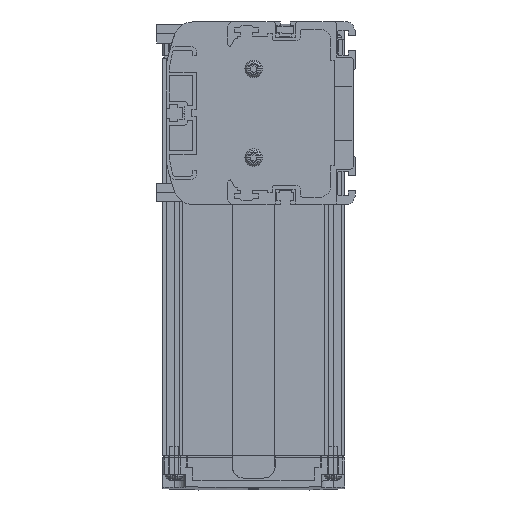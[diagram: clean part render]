
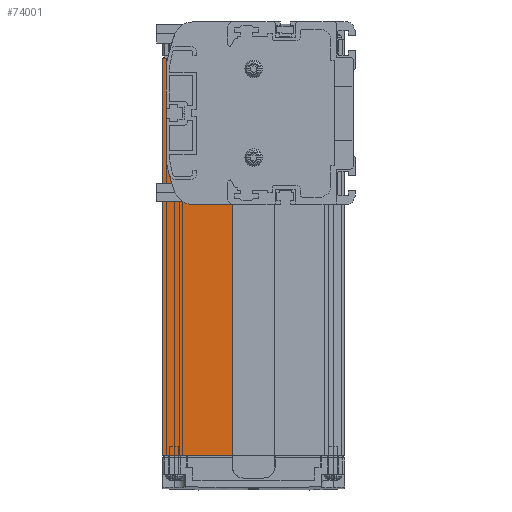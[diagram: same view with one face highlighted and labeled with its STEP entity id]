
A CAD part, left-side view. The second image highlights one B-rep face of the part: STEP entity #74001.
In plain terms, the highlighted planar face has unit normal (-1, 0, 0).
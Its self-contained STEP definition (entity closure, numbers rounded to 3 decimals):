
#71942=DIRECTION('',(0.,0.,1.));
#71943=VECTOR('',#71942,51.);
#71944=CARTESIAN_POINT('',(3.,70.5,-27.5));
#71945=LINE('',#71944,#71943);
#72591=DIRECTION('',(0.,0.,1.));
#72592=VECTOR('',#72591,170.);
#72593=CARTESIAN_POINT('',(3.,82.5,-146.5));
#72594=LINE('',#72593,#72592);
#72609=DIRECTION('',(0.,-1.,0.));
#72610=VECTOR('',#72609,29.9);
#72611=CARTESIAN_POINT('',(3.,82.5,-146.5));
#72612=LINE('',#72611,#72610);
#72613=DIRECTION('',(0.,1.,0.));
#72614=VECTOR('',#72613,12.);
#72615=CARTESIAN_POINT('',(3.,70.5,23.5));
#72616=LINE('',#72615,#72614);
#72617=DIRECTION('',(0.,1.,0.));
#72618=VECTOR('',#72617,17.9);
#72619=CARTESIAN_POINT('',(3.,52.6,-27.5));
#72620=LINE('',#72619,#72618);
#72727=DIRECTION('',(0.,0.,1.));
#72728=VECTOR('',#72727,119.);
#72729=CARTESIAN_POINT('',(3.,52.6,-146.5));
#72730=LINE('',#72729,#72728);
#72814=CARTESIAN_POINT('',(3.,70.5,23.5));
#72816=VERTEX_POINT('',#72814);
#72908=CARTESIAN_POINT('',(3.,82.5,23.5));
#72909=VERTEX_POINT('',#72908);
#72982=CARTESIAN_POINT('',(3.,82.5,-146.5));
#72983=VERTEX_POINT('',#72982);
#72984=CARTESIAN_POINT('',(3.,52.6,-146.5));
#72985=VERTEX_POINT('',#72984);
#73046=CARTESIAN_POINT('',(3.,70.5,-27.5));
#73047=VERTEX_POINT('',#73046);
#73048=CARTESIAN_POINT('',(3.,52.6,-27.5));
#73049=VERTEX_POINT('',#73048);
#73986=CARTESIAN_POINT('',(3.,67.55,-61.5));
#73987=DIRECTION('',(1.,0.,0.));
#73988=DIRECTION('',(0.,1.,0.));
#73989=AXIS2_PLACEMENT_3D('',#73986,#73987,#73988);
#73990=PLANE('',#73989);
#73991=ORIENTED_EDGE('',*,*,#73232,.F.);
#73993=ORIENTED_EDGE('',*,*,#73992,.F.);
#73995=ORIENTED_EDGE('',*,*,#73994,.F.);
#73996=ORIENTED_EDGE('',*,*,#73560,.F.);
#73997=ORIENTED_EDGE('',*,*,#73974,.T.);
#73998=ORIENTED_EDGE('',*,*,#73101,.F.);
#73999=EDGE_LOOP('',(#73991,#73993,#73995,#73996,#73997,#73998));
#74000=FACE_OUTER_BOUND('',#73999,.F.);
#74001=ADVANCED_FACE('',(#74000),#73990,.F.);
#73101=EDGE_CURVE('',#72816,#72909,#72616,.T.);
#73232=EDGE_CURVE('',#73047,#72816,#71945,.T.);
#73560=EDGE_CURVE('',#72983,#72985,#72612,.T.);
#73974=EDGE_CURVE('',#72983,#72909,#72594,.T.);
#73992=EDGE_CURVE('',#73049,#73047,#72620,.T.);
#73994=EDGE_CURVE('',#72985,#73049,#72730,.T.);
